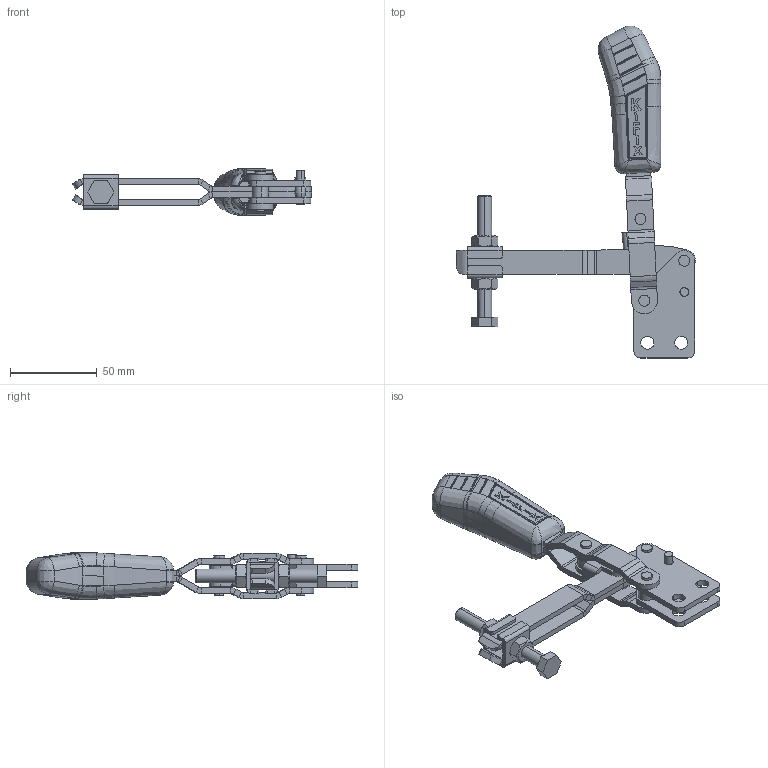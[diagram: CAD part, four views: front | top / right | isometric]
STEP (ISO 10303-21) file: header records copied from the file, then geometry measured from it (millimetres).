
FILE_DESCRIPTION (( 'STEP AP203' ), '1' );
FILE_NAME ('KF-016 RBL.STEP', '2014-07-28T16:22:15', ( 'Ricardo' ), ( '' ), 'SwSTEP 2.0', 'SolidWorks 2013', '' );
FILE_SCHEMA (( 'CONFIG_CONTROL_DESIGN' ));
Length unit declared in the file: millimetre
Products named in the file (14): 04.20011; 02.11067; 14.10001; 03.14014_Direita; 11.50002; 03.14014_Esquerda; 12.50003; 06.50001; 07.60001; 05.20046; KF-016 RBL; 01.10140; 04.10001; 06.50002
Assembly tree (20 placements, depth 2):
  KF-016 RBL
    02.11067  x2
    03.14014_Direita
    03.14014_Esquerda
    06.50001  x2
    05.20046  x2
    01.10140  x2
    04.10001
    06.50002  x2
    04.20011
    14.10001  x2
    11.50002  x2
    12.50003
    07.60001
Bounding box: 137.91 x 191.43 x 27.02 mm (x, y, z)
Volume: 93931.3 mm3; surface area: 51162 mm2
Topology: 20 solids, 20 shells, 788 faces, 1909 edges, 1176 vertices
Faces by surface type: plane 366, cylinder 249, bspline 130, cone 38, torus 5
Entity records: 23686 total; most frequent: CARTESIAN_POINT 8548, ORIENTED_EDGE 3066, DIRECTION 2389, EDGE_CURVE 1533, VERTEX_POINT 958, AXIS2_PLACEMENT_3D 845, LINE 699, VECTOR 699
